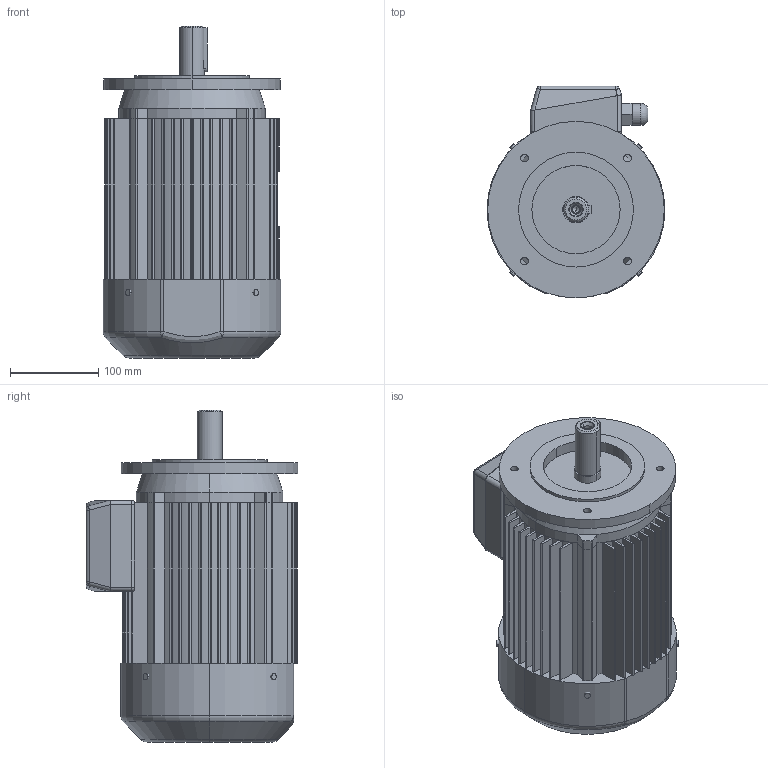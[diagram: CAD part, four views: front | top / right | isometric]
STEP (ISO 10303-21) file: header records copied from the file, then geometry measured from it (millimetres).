
FILE_DESCRIPTION (( 'STEP AP203' ), '1' );
FILE_NAME ('SKg 100L-B14-C1.STEP', '2010-02-09T12:29:59', ( 'INDUKTA' ), ( 'CANTONI MOTOR' ), 'SwSTEP 2.0', 'SolidWorks 2003064', '' );
FILE_SCHEMA (( 'CONFIG_CONTROL_DESIGN' ));
Length unit declared in the file: millimetre
Products named in the file (1): SKg 100L-B14-C1
Bounding box: 201.5 x 240 x 376 mm (x, y, z)
Volume: 8635638.5 mm3; surface area: 605090.2 mm2
Topology: 11 solids, 11 shells, 503 faces, 1345 edges, 870 vertices
Faces by surface type: plane 240, cylinder 189, bspline 43, cone 14, torus 11, sphere 6
Entity records: 19053 total; most frequent: CARTESIAN_POINT 6501, ORIENTED_EDGE 2674, DIRECTION 2529, EDGE_CURVE 1337, VERTEX_POINT 870, AXIS2_PLACEMENT_3D 852, LINE 825, VECTOR 825
